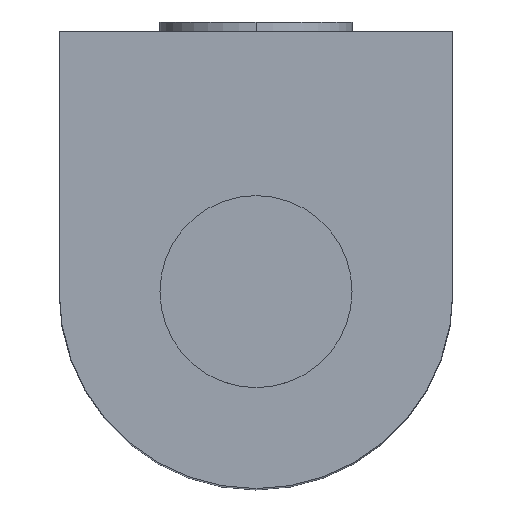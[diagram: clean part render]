
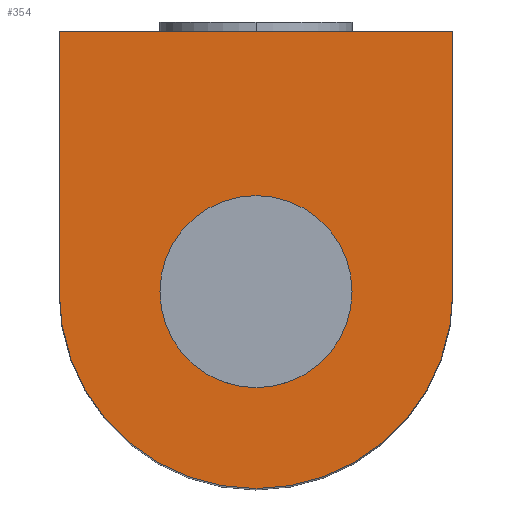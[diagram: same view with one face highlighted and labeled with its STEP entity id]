
A CAD part, top view. The second image highlights one B-rep face of the part: STEP entity #354.
In plain terms, the highlighted planar face has unit normal (0, 0, 1).
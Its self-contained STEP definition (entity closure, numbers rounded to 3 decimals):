
#7 = AXIS2_PLACEMENT_3D ( 'NONE', #388, #389, #390 ) ;
#36 = CARTESIAN_POINT ( 'NONE',  ( 0., 0., 20.9 ) ) ;
#37 = DIRECTION ( 'NONE',  ( 0., 0., 1. ) ) ;
#38 = DIRECTION ( 'NONE',  ( 1., 0., 0. ) ) ;
#44 = CARTESIAN_POINT ( 'NONE',  ( -10.25, 13.562, 20.9 ) ) ;
#45 = CARTESIAN_POINT ( 'NONE',  ( 10.25, 13.562, 20.9 ) ) ;
#46 = CARTESIAN_POINT ( 'NONE',  ( -10.25, 0., 20.9 ) ) ;
#47 = CARTESIAN_POINT ( 'NONE',  ( 10.25, 0., 20.9 ) ) ;
#82 = VERTEX_POINT ( 'NONE', #102 ) ;
#83 = VERTEX_POINT ( 'NONE', #103 ) ;
#86 = VERTEX_POINT ( 'NONE', #44 ) ;
#87 = VERTEX_POINT ( 'NONE', #45 ) ;
#88 = VERTEX_POINT ( 'NONE', #46 ) ;
#89 = VERTEX_POINT ( 'NONE', #47 ) ;
#102 = CARTESIAN_POINT ( 'NONE',  ( 5., 0., 20.9 ) ) ;
#103 = CARTESIAN_POINT ( 'NONE',  ( -5., 0., 20.9 ) ) ;
#120 = EDGE_CURVE ( 'NONE', #82, #83, #253, .T. ) ;
#124 = EDGE_CURVE ( 'NONE', #86, #87, #259, .T. ) ;
#127 = EDGE_CURVE ( 'NONE', #88, #86, #263, .T. ) ;
#128 = EDGE_CURVE ( 'NONE', #88, #89, #267, .T. ) ;
#129 = EDGE_CURVE ( 'NONE', #87, #89, #266, .T. ) ;
#130 = EDGE_CURVE ( 'NONE', #83, #82, #269, .T. ) ;
#147 = AXIS2_PLACEMENT_3D ( 'NONE', #36, #37, #38 ) ;
#149 = AXIS2_PLACEMENT_3D ( 'NONE', #326, #327, #328 ) ;
#150 = AXIS2_PLACEMENT_3D ( 'NONE', #331, #332, #333 ) ;
#156 = ORIENTED_EDGE ( 'NONE', *, *, #120, .F. ) ;
#180 = ORIENTED_EDGE ( 'NONE', *, *, #127, .F. ) ;
#181 = ORIENTED_EDGE ( 'NONE', *, *, #128, .T. ) ;
#182 = ORIENTED_EDGE ( 'NONE', *, *, #129, .F. ) ;
#183 = ORIENTED_EDGE ( 'NONE', *, *, #124, .F. ) ;
#185 = ORIENTED_EDGE ( 'NONE', *, *, #130, .F. ) ;
#221 = EDGE_LOOP ( 'NONE', ( #180, #181, #182, #183 ) ) ;
#222 = EDGE_LOOP ( 'NONE', ( #185, #156 ) ) ;
#253 = CIRCLE ( 'NONE', #147, 5. ) ;
#259 = LINE ( 'NONE', #317, #260 ) ;
#260 = VECTOR ( 'NONE', #318, 1000. ) ;
#263 = LINE ( 'NONE', #324, #265 ) ;
#265 = VECTOR ( 'NONE', #325, 1000. ) ;
#266 = LINE ( 'NONE', #329, #268 ) ;
#267 = CIRCLE ( 'NONE', #149, 10.25 ) ;
#268 = VECTOR ( 'NONE', #330, 1000. ) ;
#269 = CIRCLE ( 'NONE', #150, 5. ) ;
#291 = FACE_OUTER_BOUND ( 'NONE', #221, .T. ) ;
#292 = FACE_BOUND ( 'NONE', #222, .T. ) ;
#317 = CARTESIAN_POINT ( 'NONE',  ( 0., 13.562, 20.9 ) ) ;
#318 = DIRECTION ( 'NONE',  ( 1., 0., 0. ) ) ;
#324 = CARTESIAN_POINT ( 'NONE',  ( -10.25, -22.925, 20.9 ) ) ;
#325 = DIRECTION ( 'NONE',  ( 0., 1., 0. ) ) ;
#326 = CARTESIAN_POINT ( 'NONE',  ( 0., 0., 20.9 ) ) ;
#327 = DIRECTION ( 'NONE',  ( 0., 0., 1. ) ) ;
#328 = DIRECTION ( 'NONE',  ( 1., 0., 0. ) ) ;
#329 = CARTESIAN_POINT ( 'NONE',  ( 10.25, -22.925, 20.9 ) ) ;
#330 = DIRECTION ( 'NONE',  ( 0., -1., 0. ) ) ;
#331 = CARTESIAN_POINT ( 'NONE',  ( 0., 0., 20.9 ) ) ;
#332 = DIRECTION ( 'NONE',  ( 0., 0., 1. ) ) ;
#333 = DIRECTION ( 'NONE',  ( 1., 0., 0. ) ) ;
#354 = ADVANCED_FACE ( 'NONE', ( #291, #292 ), #387, .T. ) ;
#387 = PLANE ( 'NONE',  #7 ) ;
#388 = CARTESIAN_POINT ( 'NONE',  ( 0., -22.925, 20.9 ) ) ;
#389 = DIRECTION ( 'NONE',  ( 0., 0., 1. ) ) ;
#390 = DIRECTION ( 'NONE',  ( 1., 0., 0. ) ) ;
